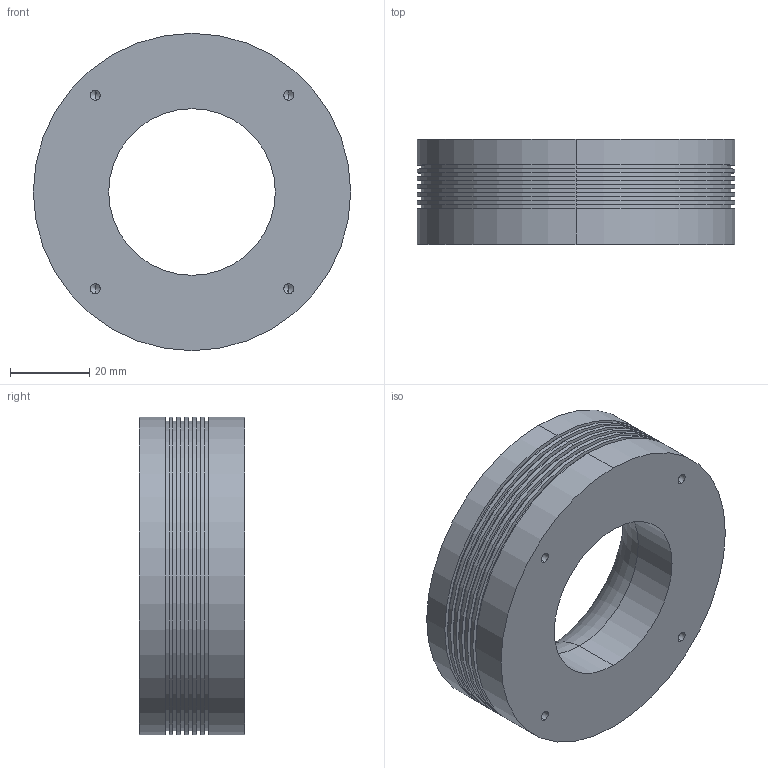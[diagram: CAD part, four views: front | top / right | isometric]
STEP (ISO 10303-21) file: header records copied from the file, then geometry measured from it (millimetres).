
FILE_DESCRIPTION (( 'STEP AP203' ), '1' );
FILE_NAME ('LRD-R2-80-3D.STEP', '2021-12-29T09:33:13', ( '' ), ( '' ), 'SwSTEP 2.0', 'SolidWorks 2018', '' );
FILE_SCHEMA (( 'CONFIG_CONTROL_DESIGN' ));
Length unit declared in the file: millimetre
Products named in the file (1): LRD-R2-80-3D
Bounding box: 80 x 26.5 x 80 mm (x, y, z)
Volume: 86956.6 mm3; surface area: 19736.6 mm2
Topology: 1 solids, 1 shells, 60 faces, 128 edges, 78 vertices
Faces by surface type: cylinder 36, plane 14, cone 8, torus 2
Entity records: 1673 total; most frequent: DIRECTION 318, CARTESIAN_POINT 259, ORIENTED_EDGE 240, AXIS2_PLACEMENT_3D 137, EDGE_CURVE 120, EDGE_LOOP 78, VERTEX_POINT 78, CIRCLE 76
